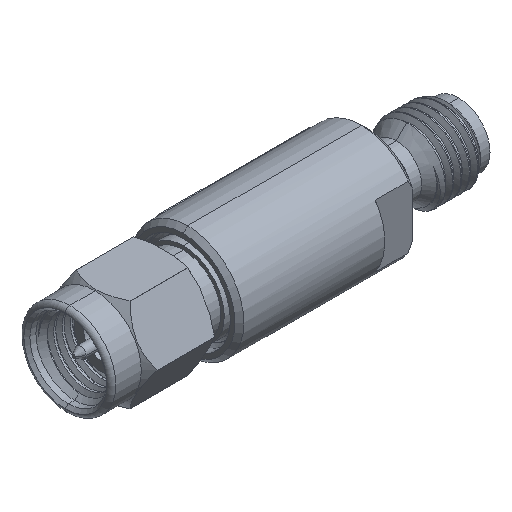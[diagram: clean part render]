
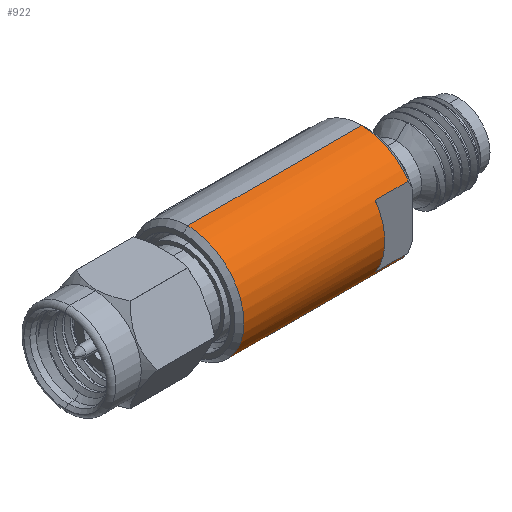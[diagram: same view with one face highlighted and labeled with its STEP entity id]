
A CAD part, isometric view. The second image highlights one B-rep face of the part: STEP entity #922.
In plain terms, the highlighted cylindrical face has radius 4.763 mm (diameter 9.525 mm), a partial arc.
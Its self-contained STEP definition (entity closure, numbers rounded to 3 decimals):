
#891 = EDGE_LOOP ( 'NONE', ( #6218, #10237, #11349, #14827, #17869, #6596, #23057, #21828 ) ) ;
#922 = ADVANCED_FACE ( 'NONE', ( #6696 ), #3264, .T. ) ;
#939 = CARTESIAN_POINT ( 'NONE',  ( 22.123, -3.962, 2.642 ) ) ;
#1039 = DIRECTION ( 'NONE',  ( 1., 0., 0. ) ) ;
#1622 = DIRECTION ( 'NONE',  ( 1., 0., 0. ) ) ;
#2204 = AXIS2_PLACEMENT_3D ( 'NONE', #3539, #1622, #9028 ) ;
#2223 = VECTOR ( 'NONE', #15121, 1000. ) ;
#2903 = DIRECTION ( 'NONE',  ( -1., 0., 0. ) ) ;
#3085 = CARTESIAN_POINT ( 'NONE',  ( 19.329, -3.962, 2.642 ) ) ;
#3264 = CYLINDRICAL_SURFACE ( 'NONE', #21353, 4.762 ) ;
#3539 = CARTESIAN_POINT ( 'NONE',  ( 22.123, 0., 0. ) ) ;
#3781 = LINE ( 'NONE', #5985, #9999 ) ;
#4551 = LINE ( 'NONE', #13575, #20144 ) ;
#5729 = CIRCLE ( 'NONE', #12706, 4.762 ) ;
#5985 = CARTESIAN_POINT ( 'NONE',  ( 22.504, -3.962, 2.642 ) ) ;
#6022 = CARTESIAN_POINT ( 'NONE',  ( 22.123, 0., -4.762 ) ) ;
#6087 = CARTESIAN_POINT ( 'NONE',  ( 22.123, 0., 0. ) ) ;
#6211 = AXIS2_PLACEMENT_3D ( 'NONE', #6087, #22650, #20936 ) ;
#6218 = ORIENTED_EDGE ( 'NONE', *, *, #20738, .F. ) ;
#6596 = ORIENTED_EDGE ( 'NONE', *, *, #14740, .T. ) ;
#6691 = DIRECTION ( 'NONE',  ( 0., 0., -1. ) ) ;
#6696 = FACE_OUTER_BOUND ( 'NONE', #891, .T. ) ;
#7702 = EDGE_CURVE ( 'NONE', #9304, #17739, #11564, .T. ) ;
#7727 = VECTOR ( 'NONE', #12236, 1000. ) ;
#8860 = CARTESIAN_POINT ( 'NONE',  ( 22.504, 0., 0. ) ) ;
#9028 = DIRECTION ( 'NONE',  ( 0., 0., -1. ) ) ;
#9304 = VERTEX_POINT ( 'NONE', #20262 ) ;
#9863 = CARTESIAN_POINT ( 'NONE',  ( 22.504, -3.962, -2.642 ) ) ;
#9999 = VECTOR ( 'NONE', #18652, 1000. ) ;
#10237 = ORIENTED_EDGE ( 'NONE', *, *, #17278, .T. ) ;
#10592 = CARTESIAN_POINT ( 'NONE',  ( 22.123, 0., 4.762 ) ) ;
#10654 = LINE ( 'NONE', #18093, #7727 ) ;
#11349 = ORIENTED_EDGE ( 'NONE', *, *, #16211, .T. ) ;
#11564 = LINE ( 'NONE', #9863, #2223 ) ;
#12236 = DIRECTION ( 'NONE',  ( 1., 0., 0. ) ) ;
#12706 = AXIS2_PLACEMENT_3D ( 'NONE', #15827, #2903, #6691 ) ;
#13071 = VERTEX_POINT ( 'NONE', #20729 ) ;
#13491 = CIRCLE ( 'NONE', #2204, 4.762 ) ;
#13575 = CARTESIAN_POINT ( 'NONE',  ( 22.504, 0., -4.762 ) ) ;
#13578 = CARTESIAN_POINT ( 'NONE',  ( 7.366, 0., 0. ) ) ;
#13825 = DIRECTION ( 'NONE',  ( 0., 0., -1. ) ) ;
#14005 = AXIS2_PLACEMENT_3D ( 'NONE', #13578, #1039, #13825 ) ;
#14011 = DIRECTION ( 'NONE',  ( 0., 0., -1. ) ) ;
#14740 = EDGE_CURVE ( 'NONE', #17739, #14955, #5729, .T. ) ;
#14827 = ORIENTED_EDGE ( 'NONE', *, *, #23830, .F. ) ;
#14955 = VERTEX_POINT ( 'NONE', #3085 ) ;
#15121 = DIRECTION ( 'NONE',  ( -1., 0., 0. ) ) ;
#15237 = VERTEX_POINT ( 'NONE', #17412 ) ;
#15827 = CARTESIAN_POINT ( 'NONE',  ( 19.329, 0., 0. ) ) ;
#16137 = VERTEX_POINT ( 'NONE', #6022 ) ;
#16211 = EDGE_CURVE ( 'NONE', #15237, #16137, #4551, .T. ) ;
#16310 = DIRECTION ( 'NONE',  ( -1., 0., 0. ) ) ;
#17278 = EDGE_CURVE ( 'NONE', #13071, #15237, #17505, .T. ) ;
#17412 = CARTESIAN_POINT ( 'NONE',  ( 7.366, 0., -4.762 ) ) ;
#17505 = CIRCLE ( 'NONE', #14005, 4.762 ) ;
#17739 = VERTEX_POINT ( 'NONE', #20973 ) ;
#17869 = ORIENTED_EDGE ( 'NONE', *, *, #7702, .T. ) ;
#18093 = CARTESIAN_POINT ( 'NONE',  ( 22.504, 0., 4.762 ) ) ;
#18169 = EDGE_CURVE ( 'NONE', #20531, #20761, #19035, .T. ) ;
#18652 = DIRECTION ( 'NONE',  ( 1., 0., 0. ) ) ;
#19035 = CIRCLE ( 'NONE', #6211, 4.762 ) ;
#20144 = VECTOR ( 'NONE', #21000, 1000. ) ;
#20262 = CARTESIAN_POINT ( 'NONE',  ( 22.123, -3.962, -2.642 ) ) ;
#20531 = VERTEX_POINT ( 'NONE', #10592 ) ;
#20729 = CARTESIAN_POINT ( 'NONE',  ( 7.366, 0., 4.762 ) ) ;
#20738 = EDGE_CURVE ( 'NONE', #13071, #20531, #10654, .T. ) ;
#20761 = VERTEX_POINT ( 'NONE', #939 ) ;
#20936 = DIRECTION ( 'NONE',  ( 0., 0., -1. ) ) ;
#20973 = CARTESIAN_POINT ( 'NONE',  ( 19.329, -3.962, -2.642 ) ) ;
#21000 = DIRECTION ( 'NONE',  ( 1., 0., 0. ) ) ;
#21353 = AXIS2_PLACEMENT_3D ( 'NONE', #8860, #16310, #14011 ) ;
#21828 = ORIENTED_EDGE ( 'NONE', *, *, #18169, .F. ) ;
#22650 = DIRECTION ( 'NONE',  ( 1., 0., 0. ) ) ;
#23057 = ORIENTED_EDGE ( 'NONE', *, *, #23956, .T. ) ;
#23830 = EDGE_CURVE ( 'NONE', #9304, #16137, #13491, .T. ) ;
#23956 = EDGE_CURVE ( 'NONE', #14955, #20761, #3781, .T. ) ;
